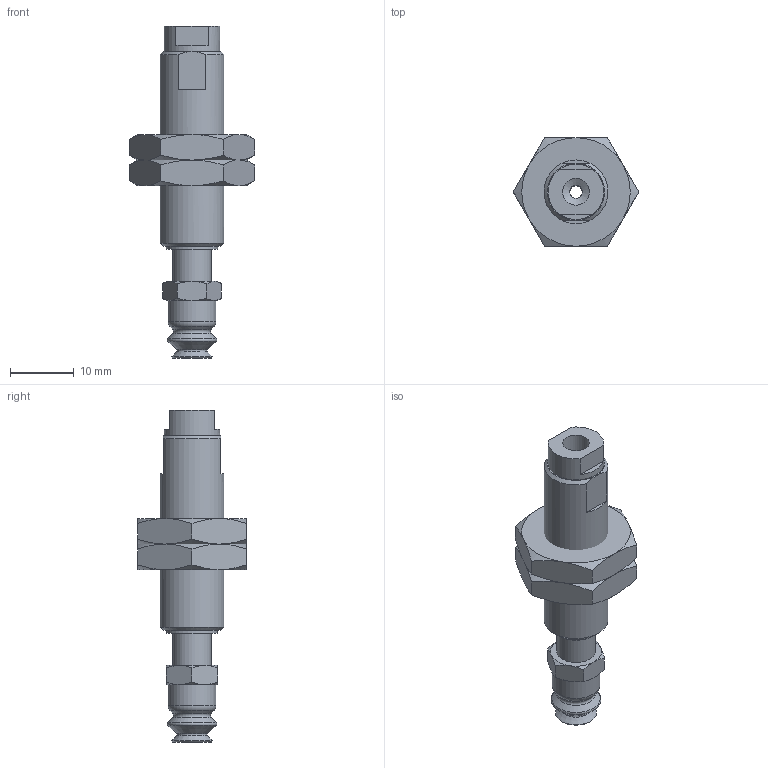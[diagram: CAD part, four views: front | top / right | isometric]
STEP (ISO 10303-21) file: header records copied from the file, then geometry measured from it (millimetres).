
FILE_DESCRIPTION(('STEP AP203'),'1');
FILE_NAME('-LB.stp','2025-04-24T07:16:21',(' '),(' '),'Spatial InterOp 3D',' ',' ');
FILE_SCHEMA(('CONFIG_CONTROL_DESIGN'));
Length unit declared in the file: millimetre
Products named in the file (7): BNABPJTH-6-5-※-LB; __; BODY; NUT; BPJG-6-_; PS-6-J-M- body
Assembly tree (6 placements, depth 2):
  BNABPJTH-6-5-※-LB
    __
    BODY
    NUT
    NUT
    BPJG-6-_
    PS-6-J-M- body
Bounding box: 19.63 x 17 x 52 mm (x, y, z)
Volume: 4457.2 mm3; surface area: 3917.5 mm2
Topology: 6 solids, 6 shells, 120 faces, 254 edges, 151 vertices
Faces by surface type: cone 50, plane 43, cylinder 17, torus 10
Full cylindrical faces by diameter (mm): 2 x2, 3.64 x1, 4 x2, 4.2 x2, 5 x1, 6 x3, 7.5 x1, 8 x1, 8.7 x1, 9 x2, 10 x1
Entity records: 3368 total; most frequent: CARTESIAN_POINT 729, DIRECTION 480, ORIENTED_EDGE 410, AXIS2_PLACEMENT_3D 224, EDGE_CURVE 205, EDGE_LOOP 176, FACE_OUTER_BOUND 147, VERTEX_POINT 141
